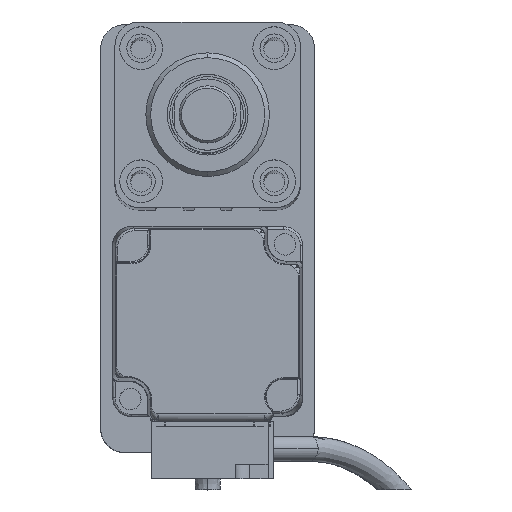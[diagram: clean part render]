
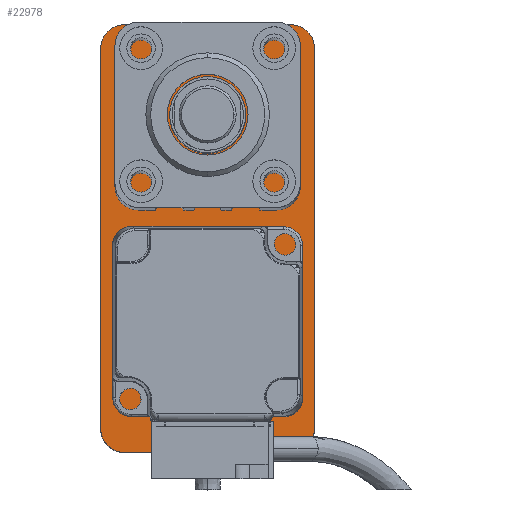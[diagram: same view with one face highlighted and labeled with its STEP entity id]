
A CAD part, top view. The second image highlights one B-rep face of the part: STEP entity #22978.
In plain terms, the highlighted planar face has unit normal (0, 0, 1).
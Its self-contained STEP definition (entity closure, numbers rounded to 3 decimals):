
#60 = CARTESIAN_POINT ( 'NONE',  ( 17.5, -40., 10. ) ) ;
#230 = EDGE_LOOP ( 'NONE', ( #14108, #2380, #11366, #13278, #22158, #8506, #15619, #23877 ) ) ;
#887 = EDGE_CURVE ( 'NONE', #12886, #2579, #10918, .T. ) ;
#1380 = VERTEX_POINT ( 'NONE', #16449 ) ;
#1446 = CARTESIAN_POINT ( 'NONE',  ( 17.5, 45., 10. ) ) ;
#2380 = ORIENTED_EDGE ( 'NONE', *, *, #15833, .T. ) ;
#2579 = VERTEX_POINT ( 'NONE', #3720 ) ;
#3274 = DIRECTION ( 'NONE',  ( 0., 0., 1. ) ) ;
#3508 = CARTESIAN_POINT ( 'NONE',  ( 22.5, -45., 10. ) ) ;
#3635 = DIRECTION ( 'NONE',  ( 1., 0., 0. ) ) ;
#3720 = CARTESIAN_POINT ( 'NONE',  ( -22.5, 40., 10. ) ) ;
#4999 = VECTOR ( 'NONE', #28848, 1000. ) ;
#5014 = CARTESIAN_POINT ( 'NONE',  ( 0., 0., 10. ) ) ;
#6128 = FACE_OUTER_BOUND ( 'NONE', #230, .T. ) ;
#7978 = CARTESIAN_POINT ( 'NONE',  ( 17.5, 40., 10. ) ) ;
#7998 = LINE ( 'NONE', #3508, #18087 ) ;
#8506 = ORIENTED_EDGE ( 'NONE', *, *, #24543, .T. ) ;
#8594 = CIRCLE ( 'NONE', #25135, 5. ) ;
#9119 = VERTEX_POINT ( 'NONE', #16542 ) ;
#9410 = CARTESIAN_POINT ( 'NONE',  ( 17.5, -45., 10. ) ) ;
#10500 = EDGE_CURVE ( 'NONE', #1380, #9119, #14032, .T. ) ;
#10918 = CIRCLE ( 'NONE', #23764, 5. ) ;
#11366 = ORIENTED_EDGE ( 'NONE', *, *, #20751, .T. ) ;
#11644 = DIRECTION ( 'NONE',  ( 1., 0., 0. ) ) ;
#11681 = EDGE_CURVE ( 'NONE', #2579, #18511, #26021, .T. ) ;
#11869 = DIRECTION ( 'NONE',  ( 1., 0., 0. ) ) ;
#12646 = DIRECTION ( 'NONE',  ( 0., -1., 0. ) ) ;
#12886 = VERTEX_POINT ( 'NONE', #22772 ) ;
#13278 = ORIENTED_EDGE ( 'NONE', *, *, #887, .T. ) ;
#14032 = LINE ( 'NONE', #19577, #4999 ) ;
#14095 = DIRECTION ( 'NONE',  ( 1., 0., 0. ) ) ;
#14108 = ORIENTED_EDGE ( 'NONE', *, *, #10500, .T. ) ;
#14913 = CIRCLE ( 'NONE', #18299, 5. ) ;
#15619 = ORIENTED_EDGE ( 'NONE', *, *, #17237, .T. ) ;
#15710 = DIRECTION ( 'NONE',  ( -1., 0., 0. ) ) ;
#15833 = EDGE_CURVE ( 'NONE', #9119, #28739, #14913, .T. ) ;
#15900 = VECTOR ( 'NONE', #15710, 1000. ) ;
#16449 = CARTESIAN_POINT ( 'NONE',  ( 22.5, -40., 10. ) ) ;
#16542 = CARTESIAN_POINT ( 'NONE',  ( 22.5, 40., 10. ) ) ;
#17018 = LINE ( 'NONE', #22737, #15900 ) ;
#17074 = AXIS2_PLACEMENT_3D ( 'NONE', #5014, #25705, #14095 ) ;
#17196 = CARTESIAN_POINT ( 'NONE',  ( -22.5, -45., 10. ) ) ;
#17237 = EDGE_CURVE ( 'NONE', #26458, #28906, #7998, .T. ) ;
#18087 = VECTOR ( 'NONE', #19362, 1000. ) ;
#18290 = CARTESIAN_POINT ( 'NONE',  ( -17.5, 40., 10. ) ) ;
#18299 = AXIS2_PLACEMENT_3D ( 'NONE', #7978, #19797, #3635 ) ;
#18511 = VERTEX_POINT ( 'NONE', #21897 ) ;
#18734 = CARTESIAN_POINT ( 'NONE',  ( -17.5, -45., 10. ) ) ;
#18842 = PLANE ( 'NONE',  #17074 ) ;
#19362 = DIRECTION ( 'NONE',  ( 1., 0., 0. ) ) ;
#19577 = CARTESIAN_POINT ( 'NONE',  ( 22.5, -45., 10. ) ) ;
#19788 = VECTOR ( 'NONE', #12646, 1000. ) ;
#19797 = DIRECTION ( 'NONE',  ( 0., 0., 1. ) ) ;
#20751 = EDGE_CURVE ( 'NONE', #28739, #12886, #17018, .T. ) ;
#21710 = CIRCLE ( 'NONE', #24301, 5. ) ;
#21897 = CARTESIAN_POINT ( 'NONE',  ( -22.5, -40., 10. ) ) ;
#22158 = ORIENTED_EDGE ( 'NONE', *, *, #11681, .T. ) ;
#22737 = CARTESIAN_POINT ( 'NONE',  ( 22.5, 45., 10. ) ) ;
#22772 = CARTESIAN_POINT ( 'NONE',  ( -17.5, 45., 10. ) ) ;
#22964 = EDGE_CURVE ( 'NONE', #28906, #1380, #21710, .T. ) ;
#22978 = ADVANCED_FACE ( 'NONE', ( #6128 ), #18842, .T. ) ;
#23764 = AXIS2_PLACEMENT_3D ( 'NONE', #18290, #29961, #11644 ) ;
#23877 = ORIENTED_EDGE ( 'NONE', *, *, #22964, .T. ) ;
#24301 = AXIS2_PLACEMENT_3D ( 'NONE', #60, #25913, #11869 ) ;
#24543 = EDGE_CURVE ( 'NONE', #18511, #26458, #8594, .T. ) ;
#25135 = AXIS2_PLACEMENT_3D ( 'NONE', #26790, #3274, #28809 ) ;
#25705 = DIRECTION ( 'NONE',  ( 0., 0., 1. ) ) ;
#25913 = DIRECTION ( 'NONE',  ( 0., 0., 1. ) ) ;
#26021 = LINE ( 'NONE', #17196, #19788 ) ;
#26458 = VERTEX_POINT ( 'NONE', #18734 ) ;
#26790 = CARTESIAN_POINT ( 'NONE',  ( -17.5, -40., 10. ) ) ;
#28739 = VERTEX_POINT ( 'NONE', #1446 ) ;
#28809 = DIRECTION ( 'NONE',  ( 1., 0., 0. ) ) ;
#28848 = DIRECTION ( 'NONE',  ( 0., 1., 0. ) ) ;
#28906 = VERTEX_POINT ( 'NONE', #9410 ) ;
#29961 = DIRECTION ( 'NONE',  ( 0., 0., 1. ) ) ;
